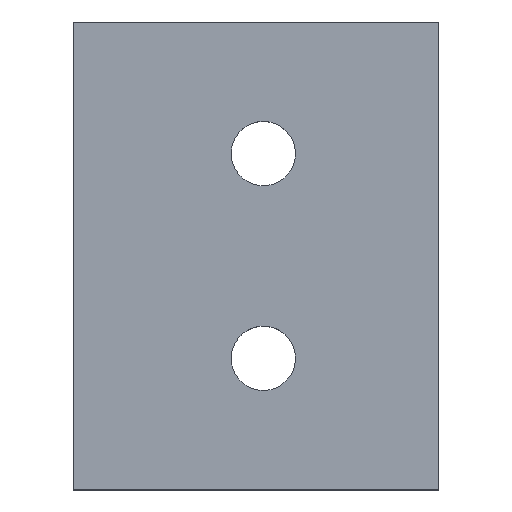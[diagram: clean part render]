
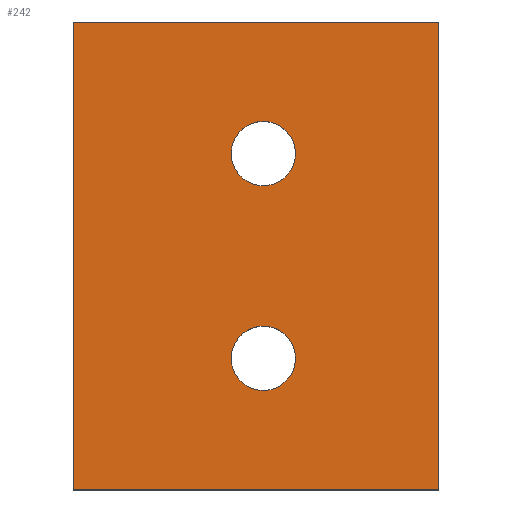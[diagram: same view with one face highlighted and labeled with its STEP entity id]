
A CAD part, top view. The second image highlights one B-rep face of the part: STEP entity #242.
In plain terms, the highlighted planar face has unit normal (0, 0, 1).
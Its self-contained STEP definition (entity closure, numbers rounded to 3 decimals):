
#7 = DIRECTION ( 'NONE',  ( 1., 0., 0. ) ) ;
#13 = DIRECTION ( 'NONE',  ( 0., 0., 1. ) ) ;
#16 = CARTESIAN_POINT ( 'NONE',  ( 62.5, 160., 30. ) ) ;
#18 = LINE ( 'NONE', #72, #208 ) ;
#19 = ORIENTED_EDGE ( 'NONE', *, *, #307, .F. ) ;
#21 = FACE_BOUND ( 'NONE', #171, .T. ) ;
#27 = ORIENTED_EDGE ( 'NONE', *, *, #283, .F. ) ;
#39 = DIRECTION ( 'NONE',  ( 1., 0., 0. ) ) ;
#40 = VERTEX_POINT ( 'NONE', #238 ) ;
#42 = VECTOR ( 'NONE', #69, 1000. ) ;
#45 = VERTEX_POINT ( 'NONE', #186 ) ;
#49 = VECTOR ( 'NONE', #57, 1000. ) ;
#51 = ORIENTED_EDGE ( 'NONE', *, *, #338, .T. ) ;
#57 = DIRECTION ( 'NONE',  ( 1., 0., 0. ) ) ;
#59 = FACE_OUTER_BOUND ( 'NONE', #344, .T. ) ;
#60 = CARTESIAN_POINT ( 'NONE',  ( 125., 0., 30. ) ) ;
#61 = VERTEX_POINT ( 'NONE', #210 ) ;
#67 = CARTESIAN_POINT ( 'NONE',  ( 0., 0., 30. ) ) ;
#69 = DIRECTION ( 'NONE',  ( -1., 0., 0. ) ) ;
#72 = CARTESIAN_POINT ( 'NONE',  ( 125., 80., 30. ) ) ;
#74 = ORIENTED_EDGE ( 'NONE', *, *, #246, .F. ) ;
#79 = DIRECTION ( 'NONE',  ( 0., 0., 1. ) ) ;
#81 = CARTESIAN_POINT ( 'NONE',  ( 65., 45., 30. ) ) ;
#87 = DIRECTION ( 'NONE',  ( 0., 0., 1. ) ) ;
#100 = CIRCLE ( 'NONE', #181, 11. ) ;
#102 = AXIS2_PLACEMENT_3D ( 'NONE', #81, #79, #253 ) ;
#104 = ORIENTED_EDGE ( 'NONE', *, *, #201, .F. ) ;
#106 = CARTESIAN_POINT ( 'NONE',  ( 62.5, 0., 30. ) ) ;
#112 = CARTESIAN_POINT ( 'NONE',  ( 0., 0., 30. ) ) ;
#114 = ORIENTED_EDGE ( 'NONE', *, *, #282, .T. ) ;
#120 = EDGE_CURVE ( 'NONE', #250, #209, #273, .T. ) ;
#123 = LINE ( 'NONE', #106, #49 ) ;
#124 = CIRCLE ( 'NONE', #102, 11. ) ;
#135 = CARTESIAN_POINT ( 'NONE',  ( 0., 80., 30. ) ) ;
#142 = PLANE ( 'NONE',  #198 ) ;
#149 = DIRECTION ( 'NONE',  ( 0., 1., 0. ) ) ;
#155 = EDGE_CURVE ( 'NONE', #209, #314, #123, .T. ) ;
#162 = DIRECTION ( 'NONE',  ( 1., 0., 0. ) ) ;
#165 = VERTEX_POINT ( 'NONE', #310 ) ;
#166 = CARTESIAN_POINT ( 'NONE',  ( 0., 160., 30. ) ) ;
#171 = EDGE_LOOP ( 'NONE', ( #104, #74 ) ) ;
#180 = AXIS2_PLACEMENT_3D ( 'NONE', #190, #332, #7 ) ;
#181 = AXIS2_PLACEMENT_3D ( 'NONE', #182, #249, #162 ) ;
#182 = CARTESIAN_POINT ( 'NONE',  ( 65., 115., 30. ) ) ;
#186 = CARTESIAN_POINT ( 'NONE',  ( 54., 115., 30. ) ) ;
#187 = ORIENTED_EDGE ( 'NONE', *, *, #120, .T. ) ;
#188 = VECTOR ( 'NONE', #241, 1000. ) ;
#190 = CARTESIAN_POINT ( 'NONE',  ( 65., 45., 30. ) ) ;
#198 = AXIS2_PLACEMENT_3D ( 'NONE', #112, #13, #39 ) ;
#201 = EDGE_CURVE ( 'NONE', #325, #165, #124, .T. ) ;
#208 = VECTOR ( 'NONE', #149, 1000. ) ;
#209 = VERTEX_POINT ( 'NONE', #67 ) ;
#210 = CARTESIAN_POINT ( 'NONE',  ( 76., 115., 30. ) ) ;
#213 = CARTESIAN_POINT ( 'NONE',  ( 65., 115., 30. ) ) ;
#218 = LINE ( 'NONE', #16, #42 ) ;
#224 = EDGE_LOOP ( 'NONE', ( #27, #19 ) ) ;
#236 = CIRCLE ( 'NONE', #257, 11. ) ;
#238 = CARTESIAN_POINT ( 'NONE',  ( 125., 160., 30. ) ) ;
#241 = DIRECTION ( 'NONE',  ( 0., -1., 0. ) ) ;
#242 = ADVANCED_FACE ( 'NONE', ( #59, #275, #21 ), #142, .T. ) ;
#246 = EDGE_CURVE ( 'NONE', #165, #325, #255, .T. ) ;
#248 = DIRECTION ( 'NONE',  ( 1., 0., 0. ) ) ;
#249 = DIRECTION ( 'NONE',  ( 0., 0., 1. ) ) ;
#250 = VERTEX_POINT ( 'NONE', #166 ) ;
#253 = DIRECTION ( 'NONE',  ( 1., 0., 0. ) ) ;
#255 = CIRCLE ( 'NONE', #180, 11. ) ;
#257 = AXIS2_PLACEMENT_3D ( 'NONE', #213, #87, #248 ) ;
#264 = ORIENTED_EDGE ( 'NONE', *, *, #155, .T. ) ;
#273 = LINE ( 'NONE', #135, #188 ) ;
#275 = FACE_BOUND ( 'NONE', #224, .T. ) ;
#282 = EDGE_CURVE ( 'NONE', #40, #250, #218, .T. ) ;
#283 = EDGE_CURVE ( 'NONE', #45, #61, #236, .T. ) ;
#304 = CARTESIAN_POINT ( 'NONE',  ( 54., 45., 30. ) ) ;
#307 = EDGE_CURVE ( 'NONE', #61, #45, #100, .T. ) ;
#310 = CARTESIAN_POINT ( 'NONE',  ( 76., 45., 30. ) ) ;
#314 = VERTEX_POINT ( 'NONE', #60 ) ;
#325 = VERTEX_POINT ( 'NONE', #304 ) ;
#332 = DIRECTION ( 'NONE',  ( 0., 0., 1. ) ) ;
#338 = EDGE_CURVE ( 'NONE', #314, #40, #18, .T. ) ;
#344 = EDGE_LOOP ( 'NONE', ( #264, #51, #114, #187 ) ) ;
